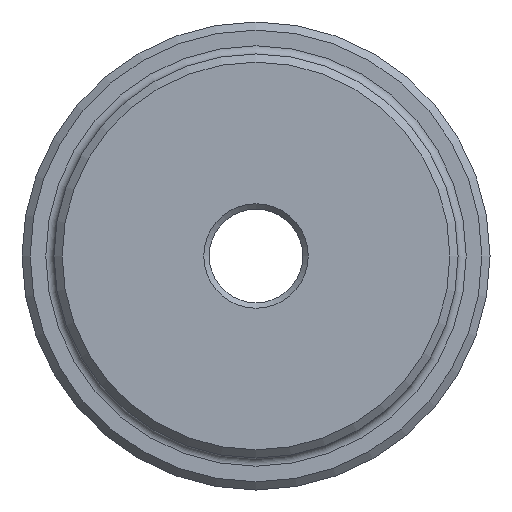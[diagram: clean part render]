
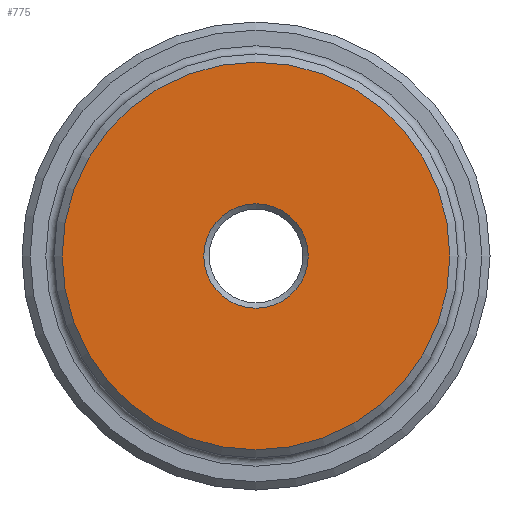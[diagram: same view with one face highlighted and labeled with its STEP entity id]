
A CAD part, left-side view. The second image highlights one B-rep face of the part: STEP entity #775.
In plain terms, the highlighted planar face has unit normal (-1, 0, 0).
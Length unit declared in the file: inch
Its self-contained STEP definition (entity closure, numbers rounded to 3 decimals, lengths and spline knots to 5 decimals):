
#82 = EDGE_CURVE ( 'NONE', #970, #970, #313, .T. ) ;
#97 = DIRECTION ( 'NONE',  ( 1., 0., 0. ) ) ;
#313 = CIRCLE ( 'NONE', #966, 1.425 ) ;
#373 = VERTEX_POINT ( 'NONE', #944 ) ;
#459 = DIRECTION ( 'NONE',  ( -1., 0., 0. ) ) ;
#604 = ORIENTED_EDGE ( 'NONE', *, *, #82, .T. ) ;
#729 = CARTESIAN_POINT ( 'NONE',  ( 0., 0., -1.425 ) ) ;
#733 = EDGE_LOOP ( 'NONE', ( #1583 ) ) ;
#775 = ADVANCED_FACE ( 'NONE', ( #1124, #1558 ), #992, .F. ) ;
#868 = AXIS2_PLACEMENT_3D ( 'NONE', #1515, #921, #1175 ) ;
#921 = DIRECTION ( 'NONE',  ( 1., 0., 0. ) ) ;
#944 = CARTESIAN_POINT ( 'NONE',  ( 0., 0., -0.3839 ) ) ;
#966 = AXIS2_PLACEMENT_3D ( 'NONE', #1295, #459, #1321 ) ;
#970 = VERTEX_POINT ( 'NONE', #729 ) ;
#992 = PLANE ( 'NONE',  #868 ) ;
#1124 = FACE_BOUND ( 'NONE', #733, .T. ) ;
#1154 = CIRCLE ( 'NONE', #1759, 0.3839 ) ;
#1175 = DIRECTION ( 'NONE',  ( 0., 0., -1. ) ) ;
#1258 = DIRECTION ( 'NONE',  ( 0., 0., -1. ) ) ;
#1295 = CARTESIAN_POINT ( 'NONE',  ( 0., 0., 0. ) ) ;
#1321 = DIRECTION ( 'NONE',  ( 0., 0., -1. ) ) ;
#1365 = EDGE_LOOP ( 'NONE', ( #604 ) ) ;
#1515 = CARTESIAN_POINT ( 'NONE',  ( 0., 0., 0. ) ) ;
#1558 = FACE_OUTER_BOUND ( 'NONE', #1365, .T. ) ;
#1583 = ORIENTED_EDGE ( 'NONE', *, *, #1635, .T. ) ;
#1635 = EDGE_CURVE ( 'NONE', #373, #373, #1154, .T. ) ;
#1652 = CARTESIAN_POINT ( 'NONE',  ( 0., 0., 0. ) ) ;
#1759 = AXIS2_PLACEMENT_3D ( 'NONE', #1652, #97, #1258 ) ;
